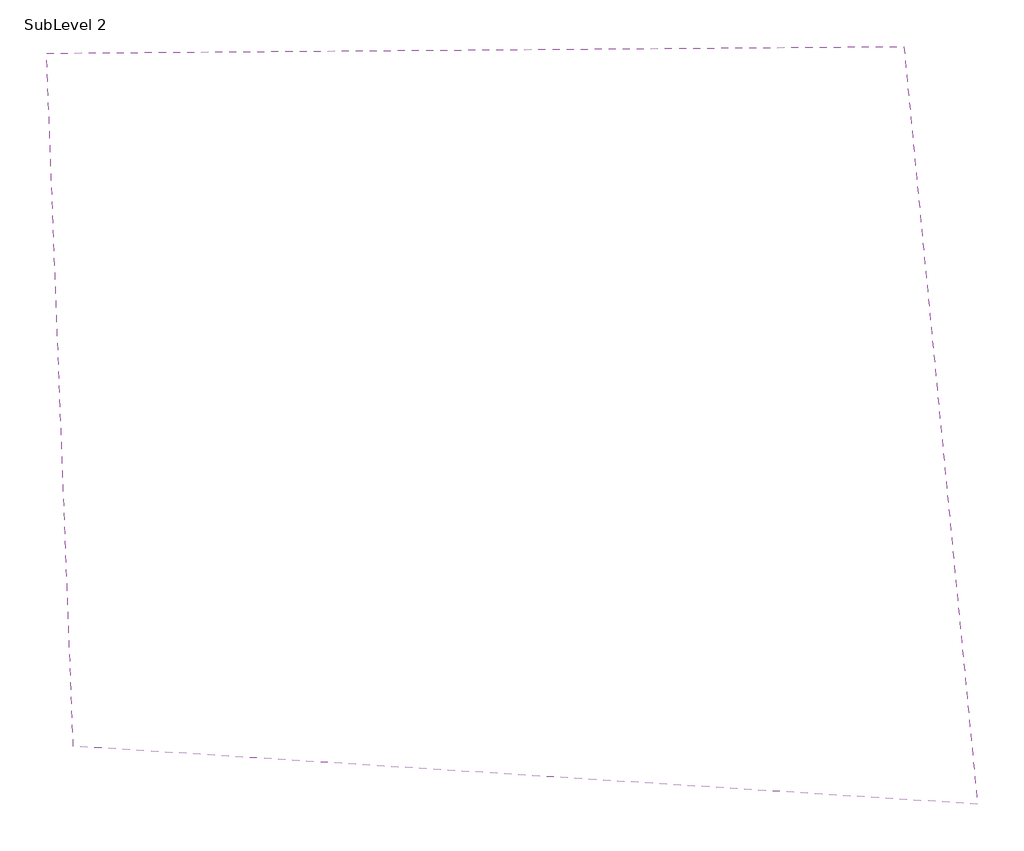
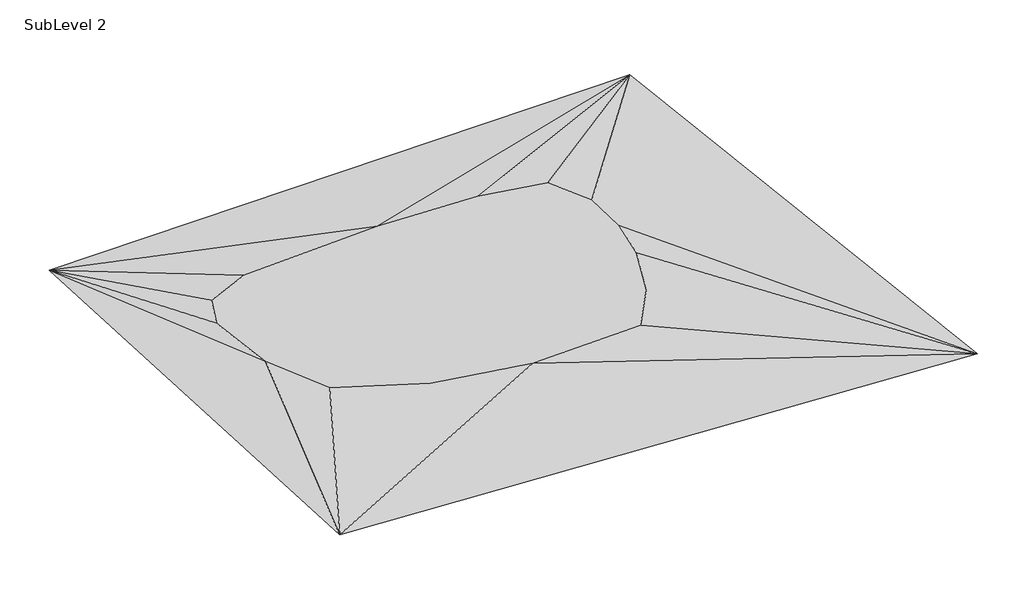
# One storey: 1 proxy.
"""IFC4 building model written with IfcOpenShell, lengths in millimetres."""

import ifcopenshell
import ifcopenshell.guid

model = None  # the IFC model being written
_history = None  # IfcOwnerHistory: only IFC2X3 demands one
_inside = {}  # id of a spatial element -> (the spatial element, [elements in it])
_under = {}  # id of a project, library or spatial element -> (it, [spatial elements below it])
_declared = {}  # id of a project -> (the project, [libraries it declares])
_typed = {}  # id of a type object -> (the type object, [elements of that type])
_made_of = {}  # id of a material, layer set ... -> (it, [elements and type objects made of it])


def new_model(schema):
    """Start an empty IFC model of exactly this schema.

    Asked for "IFC4X3", IfcOpenShell would pick the latest addendum, in which some entities
    have other attributes; the version numbers below select the first issue.
    IFC2X3 requires an IfcOwnerHistory on every rooted entity: one is made here for all.
    """
    global model, _history
    if schema == "IFC4X3":
        model = ifcopenshell.file(schema_version=(4, 3, 0, 0))
    else:
        model = ifcopenshell.file(schema=schema)
    _inside.clear()
    _under.clear()
    _declared.clear()
    _typed.clear()
    _made_of.clear()
    _history = None
    if model.schema == "IFC2X3":
        org = make("IfcOrganization", Name="unknown")
        user = make(
            "IfcPersonAndOrganization",
            ThePerson=make("IfcPerson", FamilyName="unknown"),
            TheOrganization=org,
        )
        app = make(
            "IfcApplication",
            ApplicationDeveloper=org,
            Version="unknown",
            ApplicationFullName="unknown",
            ApplicationIdentifier="unknown",
        )
        _history = make(
            "IfcOwnerHistory",
            OwningUser=user,
            OwningApplication=app,
            ChangeAction="ADDED",
            CreationDate=0,
        )
    return model


def make(cls, **values):
    """One entity of the class cls with the attributes given. An attribute that is None is left unset."""
    return model.create_entity(
        cls, **{name: value for name, value in values.items() if value is not None}
    )


def rooted(cls, **values):
    """An entity with a GlobalId (a new one), such as an element, a storey or a relation."""
    return make(cls, GlobalId=ifcopenshell.guid.new(), OwnerHistory=_history, **values)


def si_unit(unit_type, name, prefix=None):
    """IfcSIUnit, for example si_unit("LENGTHUNIT", "METRE", prefix="MILLI")."""
    return make("IfcSIUnit", UnitType=unit_type, Prefix=prefix, Name=name)


def assignment(units):
    """IfcUnitAssignment: the units of a project."""
    return None if units is None else make("IfcUnitAssignment", Units=units)


def point(xyz):
    """IfcCartesianPoint."""
    return None if xyz is None else make("IfcCartesianPoint", Coordinates=xyz)


def direction(xyz):
    """IfcDirection."""
    return None if xyz is None else make("IfcDirection", DirectionRatios=xyz)


def frame(location, z_axis=None, x_axis=None):
    """IfcAxis2Placement3D, a coordinate frame: its origin and axes. An axis left out is left unset."""
    return make(
        "IfcAxis2Placement3D",
        Location=point(location),
        Axis=direction(z_axis),
        RefDirection=direction(x_axis),
    )


def origin():
    """The frame at (0, 0, 0) with its axes left unset."""
    return frame((0.0, 0.0, 0.0))


def place(relative_to, where):
    """IfcLocalPlacement: puts the frame where relative to a parent placement (None: the world)."""
    return make(
        "IfcLocalPlacement", PlacementRelTo=relative_to, RelativePlacement=where
    )


def context(
    kind, dimensions, precision=None, world=None, true_north=None, identifier=None
):
    """IfcGeometricRepresentationContext, for example the 3D "Model" context."""
    return make(
        "IfcGeometricRepresentationContext",
        ContextIdentifier=identifier,
        ContextType=kind,
        CoordinateSpaceDimension=dimensions,
        Precision=precision,
        WorldCoordinateSystem=world,
        TrueNorth=true_north,
    )


def project(units=None, contexts=None):
    """IfcProject with its units and contexts."""
    return rooted(
        "IfcProject",
        Name="project",
        RepresentationContexts=contexts,
        UnitsInContext=assignment(units),
    )


def spatial(cls, under=None, at=None, **own):
    """A site, building, storey or space (cls), placed at a placement, below another one or the project."""
    s = rooted(cls, ObjectPlacement=at, **own)
    if under is not None:
        _under.setdefault(under.id(), (under, []))[1].append(s)
    return s


def point_list(points):
    """IfcCartesianPointList2D or 3D."""
    cls = (
        "IfcCartesianPointList2D" if len(points[0]) == 2 else "IfcCartesianPointList3D"
    )
    return make(cls, CoordList=points)


def triangles(points, corners, closed=None, point_numbers=None):
    """IfcTriangulatedFaceSet: each triangle names its three corners, points numbered from 1."""
    return make(
        "IfcTriangulatedFaceSet",
        Coordinates=point_list(points),
        Closed=closed,
        CoordIndex=corners,
        PnIndex=point_numbers,
    )


def shape(context_of_items, identifier, shape_type, items):
    """IfcShapeRepresentation: the items that make up one representation, for example the "Body"."""
    return make(
        "IfcShapeRepresentation",
        ContextOfItems=context_of_items,
        RepresentationIdentifier=identifier,
        RepresentationType=shape_type,
        Items=items,
    )


def made_of(thing, what):
    """Note that an element or type object is made of a material, layer set ...; save() writes the relation."""
    if what is not None:
        _made_of.setdefault(what.id(), (what, []))[1].append(thing)
    return thing


def element(
    cls,
    number,
    at=None,
    inside=None,
    cuts=None,
    type_object=None,
    material=None,
    context=None,
    identifier="Body",
    shape_type=None,
    held_by="IfcProductDefinitionShape",
    body=None,
    shapes=None,
    **own,
):
    """One element of the class cls, such as IfcWall. Its Tag is "e" and its number.

    at: its placement. inside: the storey or other place that contains it. cuts: it is an
    opening in that element (IfcRelVoidsElement). A single representation is given by context,
    identifier, shape_type and body (its items); several are given by shapes. held_by: the class
    of the entity that holds the representations. save() writes the other relations.
    """
    e = rooted(cls, Tag="e%d" % number, ObjectPlacement=at, **own)
    if body is not None:
        shapes = [shape(context, identifier, shape_type, body)]
    if shapes is not None:
        e.Representation = make(held_by, Representations=shapes)
    if inside is not None:
        _inside.setdefault(inside.id(), (inside, []))[1].append(e)
    if cuts is not None:
        rooted(
            "IfcRelVoidsElement", RelatingBuildingElement=cuts, RelatedOpeningElement=e
        )
    if type_object is not None:
        _typed.setdefault(type_object.id(), (type_object, []))[1].append(e)
    return made_of(e, material)


def aggregate(whole, parts):
    """IfcRelAggregates: a whole, such as a stair, and the parts it consists of."""
    return rooted("IfcRelAggregates", RelatingObject=whole, RelatedObjects=parts)


def save(model, path):
    """Write the relations noted so far, then the file.

    IfcRelAggregates (storeys below a building ...), IfcRelContainedInSpatialStructure (elements
    in a storey), IfcRelDefinesByType, IfcRelAssociatesMaterial and IfcRelDeclares: one each for
    every whole, place, type object, material and project.
    """
    for whole, parts in _under.values():
        aggregate(whole, parts)
    for where, things in _inside.values():
        rooted(
            "IfcRelContainedInSpatialStructure",
            RelatedElements=things,
            RelatingStructure=where,
        )
    for kind, things in _typed.values():
        rooted("IfcRelDefinesByType", RelatedObjects=things, RelatingType=kind)
    for what, things in _made_of.values():
        rooted("IfcRelAssociatesMaterial", RelatedObjects=things, RelatingMaterial=what)
    for by, libraries in _declared.values():
        rooted("IfcRelDeclares", RelatingContext=by, RelatedDefinitions=libraries)
    model.write(path)


model = new_model("IFC4")

# Units and contexts
model_context = context("Model", 3, world=origin())
ifc_project = project(units=[si_unit("LENGTHUNIT", "METRE", prefix="MILLI")], contexts=[model_context])

# Site, building, storey
site = spatial("IfcSite", under=ifc_project)
building = spatial("IfcBuilding", under=site)
storey = spatial("IfcBuildingStorey", under=building, Name="SubLevel 2", Elevation=-9144.0)

# Proxy
placement = place(None, origin())
element("IfcBuildingElementProxy", 1, Name="Building Element Proxy", at=placement, inside=storey, context=model_context, shape_type="Tessellation", body=[
    triangles([(-147237.9615967, 107808.442749, -6096.0), (-138070.1583984, -129790.4591309, -6096.0), (146513.7360352, 110100.3865723, -6096.0), (171725.2018066, -149654.0373779, -6096.0), (-79971.4628174, 54487.0602173, 0.0), (-11117.5353516, 57929.7570557, 0.0), (38555.6582336, 55470.6885498, 0.0), (70031.7392944, 49077.1067139, 0.0), (80359.8298096, 28420.928009, 0.0), (80851.6416504, 5797.4938019, 0.0), (76917.1329712, -16334.1274017, 0.0), (66589.0424561, -42892.0702881, 0.0), (50851.0030884, -65023.6914917, 0.0), (-4232.1419655, -66499.131665, 0.0), (-50462.6407471, -57154.6741333, 0.0), (-90299.5579834, -38465.7474426, 0.0), (-104562.1571777, -6989.6646378, 0.0), (-108496.6705078, 28912.7421753, 0.0), (-101611.2768311, 45142.5980347, 0.0)], [[2, 17, 1], [17, 2, 16], [16, 15, 17], [15, 16, 2], [2, 14, 15], [17, 15, 5], [1, 18, 19], [18, 1, 17], [18, 5, 19], [18, 17, 5], [5, 6, 1], [19, 5, 1], [15, 6, 5], [1, 6, 3], [15, 14, 6], [14, 13, 12], [13, 14, 4], [12, 4, 11], [4, 12, 13], [11, 4, 10], [12, 11, 14], [14, 2, 4], [14, 11, 7], [7, 8, 3], [8, 7, 9], [9, 10, 3], [10, 9, 7], [3, 10, 4], [9, 3, 8], [7, 11, 10], [7, 3, 6], [14, 7, 6]], closed=False),
])

save(model, "model.ifc")
